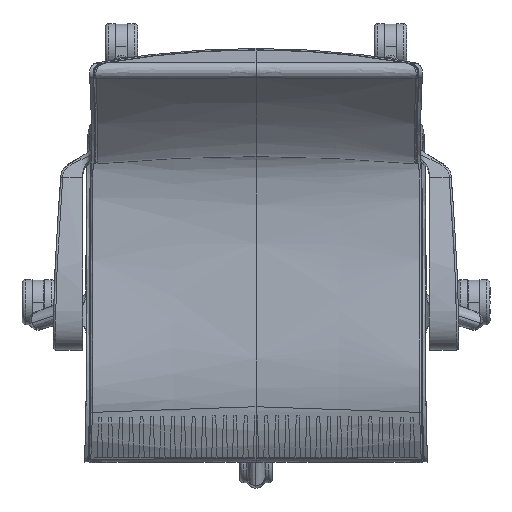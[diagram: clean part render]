
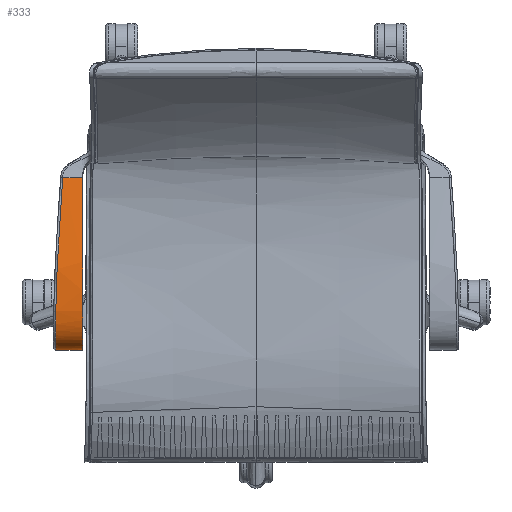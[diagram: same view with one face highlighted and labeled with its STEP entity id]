
A CAD part, top view. The second image highlights one B-rep face of the part: STEP entity #333.
In plain terms, the highlighted free-form (B-spline) face has degree [3, 1] with [12, 2] control points.
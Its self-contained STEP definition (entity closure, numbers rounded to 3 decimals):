
#333=ADVANCED_FACE('',(#776),#8285,.T.);
#776=FACE_OUTER_BOUND('',#1220,.T.);
#1220=EDGE_LOOP('',(#1923,#1924,#1925,#1926));
#1923=ORIENTED_EDGE('',*,*,#4261,.T.);
#1924=ORIENTED_EDGE('',*,*,#4257,.T.);
#1925=ORIENTED_EDGE('',*,*,#4236,.T.);
#1926=ORIENTED_EDGE('',*,*,#4237,.T.);
#4236=EDGE_CURVE('',#7075,#7076,#6202,.T.);
#4237=EDGE_CURVE('',#7076,#7083,#6203,.T.);
#4257=EDGE_CURVE('',#7084,#7075,#6223,.T.);
#4261=EDGE_CURVE('',#7083,#7084,#5589,.T.);
#5589=(
BOUNDED_CURVE()
B_SPLINE_CURVE(3,(#21721,#21722,#21723,#21724,#21725,#21726,#21727,#21728,
#21729,#21730,#21731,#21732,#21733,#21734,#21735,#21736,#21737,#21738,#21739,
#21740,#21741,#21742,#21743,#21744,#21745,#21746,#21747,#21748,#21749,#21750,
#21751,#21752,#21753,#21754,#21755,#21756,#21757,#21758,#21759,#21760,#21761,
#21762,#21763,#21764,#21765,#21766,#21767),.UNSPECIFIED.,.F.,.F.)
B_SPLINE_CURVE_WITH_KNOTS((4,3,1,3,3,3,1,1,1,3,3,3,3,3,3,1,1,1,3,3,4),(-0.245,
0.,49.272,95.522,143.284,
167.165,185.869,202.239,215.321,228.404,
240.875,247.111,253.347,265.817,278.272,
292.982,311.11,332.383,355.583,388.016,
420.686),.UNSPECIFIED.)
CURVE()
GEOMETRIC_REPRESENTATION_ITEM()
RATIONAL_B_SPLINE_CURVE((1.,1.,1.,1.,1.,1.,1.,
1.,1.,1.,1.,1.,1.,1.,1.,1.,1.,1.,1.,1.,1.,
1.,1.,1.,1.,1.,1.,1.,1.,1.,1.,1.,1.,1.,1.,1.,
1.,1.,1.,1.,1.,1.,1.,1.,1.,1.,1.))
REPRESENTATION_ITEM('')
);
#6202=B_SPLINE_CURVE_WITH_KNOTS('',3,(#21412,#21413,#21414,#21415,#21416,
#21417,#21418,#21419,#21420,#21421,#21422,#21423),.UNSPECIFIED.,.F.,.F.,
(4,1,1,1,1,1,1,1,1,4),(-466.887,-436.691,-382.104,
-327.518,-272.932,-218.345,-163.759,
-109.173,-54.586,-12.022),.UNSPECIFIED.);
#6203=B_SPLINE_CURVE_WITH_KNOTS('',1,(#21424,#21425),.UNSPECIFIED.,.F.,
 .F.,(2,2),(0.,28.661),.UNSPECIFIED.);
#6223=B_SPLINE_CURVE_WITH_KNOTS('',1,(#21709,#21710),.UNSPECIFIED.,.F.,
 .F.,(2,2),(-28.469,0.),.UNSPECIFIED.);
#7075=VERTEX_POINT('',#19203);
#7076=VERTEX_POINT('',#19204);
#7083=VERTEX_POINT('',#19211);
#7084=VERTEX_POINT('',#19212);
#8285=B_SPLINE_SURFACE_WITH_KNOTS('',3,1,((#11416,#11417),(#11418,#11419),
(#11420,#11421),(#11422,#11423),(#11424,#11425),(#11426,#11427),(#11428,
#11429),(#11430,#11431),(#11432,#11433),(#11434,#11435),(#11436,#11437),
(#11438,#11439)),.UNSPECIFIED.,.F.,.F.,.F.,(4,1,1,1,1,1,1,1,1,4),(2,2),
(12.022,54.586,109.173,163.759,218.345,
272.932,327.518,382.104,436.691,466.887),
(-31.67,0.),.UNSPECIFIED.);
#11416=CARTESIAN_POINT('',(-281.67,103.387,713.484));
#11417=CARTESIAN_POINT('',(-250.,103.387,713.484));
#11418=CARTESIAN_POINT('',(-284.065,74.823,720.03));
#11419=CARTESIAN_POINT('',(-250.,74.823,720.03));
#11420=CARTESIAN_POINT('',(-288.22,11.656,733.698));
#11421=CARTESIAN_POINT('',(-250.,11.656,733.698));
#11422=CARTESIAN_POINT('',(-291.,-57.023,740.437));
#11423=CARTESIAN_POINT('',(-250.,-57.023,740.437));
#11424=CARTESIAN_POINT('',(-292.,-100.771,739.78));
#11425=CARTESIAN_POINT('',(-250.,-100.771,739.78));
#11426=CARTESIAN_POINT('',(-292.,-131.855,729.003));
#11427=CARTESIAN_POINT('',(-250.,-131.855,729.003));
#11428=CARTESIAN_POINT('',(-292.,-146.465,705.752));
#11429=CARTESIAN_POINT('',(-250.,-146.465,705.752));
#11430=CARTESIAN_POINT('',(-292.,-145.072,678.05));
#11431=CARTESIAN_POINT('',(-250.5,-145.072,678.05));
#11432=CARTESIAN_POINT('',(-291.,-136.359,639.816));
#11433=CARTESIAN_POINT('',(-251.5,-136.359,639.816));
#11434=CARTESIAN_POINT('',(-289.043,-125.041,595.689));
#11435=CARTESIAN_POINT('',(-253.202,-125.041,595.689));
#11436=CARTESIAN_POINT('',(-286.545,-115.28,560.459));
#11437=CARTESIAN_POINT('',(-254.941,-115.28,560.459));
#11438=CARTESIAN_POINT('',(-285.387,-112.055,546.65));
#11439=CARTESIAN_POINT('',(-255.643,-112.055,546.65));
#19203=CARTESIAN_POINT('',(-255.643,-112.055,546.65));
#19204=CARTESIAN_POINT('',(-250.,103.387,713.484));
#19211=CARTESIAN_POINT('',(-278.661,103.387,713.484));
#19212=CARTESIAN_POINT('',(-282.38,-112.055,546.65));
#21412=CARTESIAN_POINT('',(-255.643,-112.055,546.65));
#21413=CARTESIAN_POINT('',(-254.941,-115.28,560.459));
#21414=CARTESIAN_POINT('',(-253.202,-125.041,595.689));
#21415=CARTESIAN_POINT('',(-251.5,-136.359,639.816));
#21416=CARTESIAN_POINT('',(-250.5,-145.072,678.05));
#21417=CARTESIAN_POINT('',(-250.,-146.465,705.752));
#21418=CARTESIAN_POINT('',(-250.,-131.855,729.003));
#21419=CARTESIAN_POINT('',(-250.,-100.771,739.78));
#21420=CARTESIAN_POINT('',(-250.,-57.023,740.437));
#21421=CARTESIAN_POINT('',(-250.,11.656,733.698));
#21422=CARTESIAN_POINT('',(-250.,74.823,720.03));
#21423=CARTESIAN_POINT('',(-250.,103.387,713.484));
#21424=CARTESIAN_POINT('',(-250.,103.387,713.484));
#21425=CARTESIAN_POINT('',(-278.661,103.387,713.484));
#21709=CARTESIAN_POINT('',(-282.38,-112.055,546.65));
#21710=CARTESIAN_POINT('',(-255.643,-112.055,546.65));
#21721=CARTESIAN_POINT('',(-278.661,103.387,713.484));
#21722=CARTESIAN_POINT('',(-278.667,103.308,713.502));
#21723=CARTESIAN_POINT('',(-278.674,103.228,713.52));
#21724=CARTESIAN_POINT('',(-278.681,103.149,713.539));
#21725=CARTESIAN_POINT('',(-280.02,87.178,717.195));
#21726=CARTESIAN_POINT('',(-282.324,56.146,724.109));
#21727=CARTESIAN_POINT('',(-284.186,24.822,730.085));
#21728=CARTESIAN_POINT('',(-284.995,9.542,732.465));
#21729=CARTESIAN_POINT('',(-285.831,-6.231,734.926));
#21730=CARTESIAN_POINT('',(-286.558,-22.102,736.874));
#21731=CARTESIAN_POINT('',(-287.165,-38.043,738.162));
#21732=CARTESIAN_POINT('',(-287.469,-46.015,738.802));
#21733=CARTESIAN_POINT('',(-287.746,-53.992,739.294));
#21734=CARTESIAN_POINT('',(-287.994,-62.004,739.577));
#21735=CARTESIAN_POINT('',(-288.189,-68.271,739.781));
#21736=CARTESIAN_POINT('',(-288.517,-80.097,739.947));
#21737=CARTESIAN_POINT('',(-288.827,-96.426,738.717));
#21738=CARTESIAN_POINT('',(-288.969,-110.779,735.888));
#21739=CARTESIAN_POINT('',(-288.995,-119.375,732.681));
#21740=CARTESIAN_POINT('',(-288.998,-123.468,730.49));
#21741=CARTESIAN_POINT('',(-289.001,-127.359,728.413));
#21742=CARTESIAN_POINT('',(-289.,-131.052,725.731));
#21743=CARTESIAN_POINT('',(-289.,-134.153,722.465));
#21744=CARTESIAN_POINT('',(-289.,-135.707,720.836));
#21745=CARTESIAN_POINT('',(-289.,-137.12,719.071));
#21746=CARTESIAN_POINT('',(-289.,-138.369,717.197));
#21747=CARTESIAN_POINT('',(-289.,-139.619,715.323));
#21748=CARTESIAN_POINT('',(-289.,-140.705,713.342));
#21749=CARTESIAN_POINT('',(-289.,-141.614,711.287));
#21750=CARTESIAN_POINT('',(-288.999,-143.442,707.182));
#21751=CARTESIAN_POINT('',(-289.002,-144.534,702.761));
#21752=CARTESIAN_POINT('',(-288.997,-144.985,698.368));
#21753=CARTESIAN_POINT('',(-288.993,-145.445,693.975));
#21754=CARTESIAN_POINT('',(-288.977,-145.331,689.621));
#21755=CARTESIAN_POINT('',(-288.942,-144.968,685.362));
#21756=CARTESIAN_POINT('',(-288.901,-144.521,680.33));
#21757=CARTESIAN_POINT('',(-288.744,-142.84,669.341));
#21758=CARTESIAN_POINT('',(-288.286,-139.029,651.584));
#21759=CARTESIAN_POINT('',(-287.577,-134.086,631.285));
#21760=CARTESIAN_POINT('',(-286.945,-130.445,616.906));
#21761=CARTESIAN_POINT('',(-286.568,-128.493,609.422));
#21762=CARTESIAN_POINT('',(-286.042,-125.775,598.959));
#21763=CARTESIAN_POINT('',(-285.433,-122.969,588.513));
#21764=CARTESIAN_POINT('',(-284.743,-120.134,578.105));
#21765=CARTESIAN_POINT('',(-284.049,-117.284,567.625));
#21766=CARTESIAN_POINT('',(-283.265,-114.506,557.166));
#21767=CARTESIAN_POINT('',(-282.38,-112.055,546.65));
